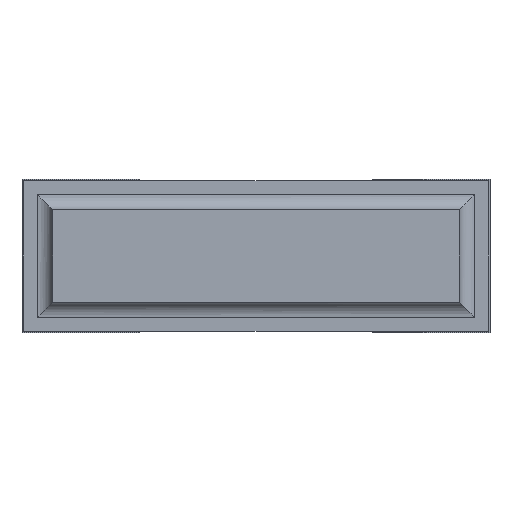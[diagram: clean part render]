
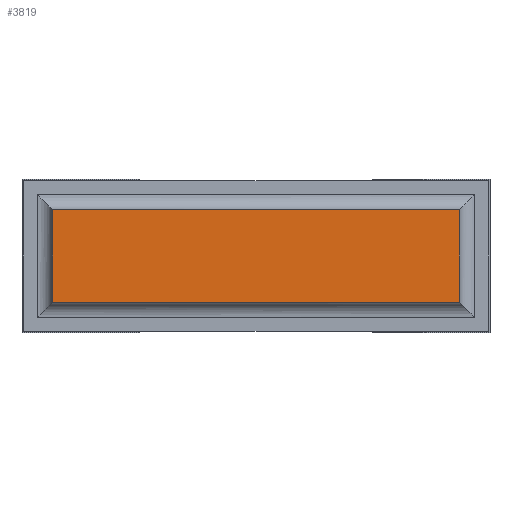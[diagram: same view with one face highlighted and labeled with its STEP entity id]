
A CAD part, front view. The second image highlights one B-rep face of the part: STEP entity #3819.
In plain terms, the highlighted planar face has unit normal (0, -1, 0).
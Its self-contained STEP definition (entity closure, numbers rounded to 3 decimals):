
#205=FACE_OUTER_BOUND('',#441,.T.);
#441=EDGE_LOOP('',(#2767,#2768,#2769,#2770));
#746=LINE('',#5626,#1238);
#752=LINE('',#5642,#1244);
#755=LINE('',#5651,#1247);
#757=LINE('',#5655,#1249);
#1238=VECTOR('',#4536,10.);
#1244=VECTOR('',#4550,10.);
#1247=VECTOR('',#4565,10.);
#1249=VECTOR('',#4571,10.);
#1695=VERTEX_POINT('',#5623);
#1696=VERTEX_POINT('',#5625);
#1700=VERTEX_POINT('',#5636);
#1702=VERTEX_POINT('',#5640);
#2078=EDGE_CURVE('',#1696,#1695,#746,.T.);
#2086=EDGE_CURVE('',#1700,#1702,#752,.T.);
#2091=EDGE_CURVE('',#1695,#1700,#755,.T.);
#2093=EDGE_CURVE('',#1702,#1696,#757,.T.);
#2767=ORIENTED_EDGE('',*,*,#2078,.T.);
#2768=ORIENTED_EDGE('',*,*,#2091,.T.);
#2769=ORIENTED_EDGE('',*,*,#2086,.T.);
#2770=ORIENTED_EDGE('',*,*,#2093,.T.);
#3625=PLANE('',#4093);
#3819=ADVANCED_FACE('',(#205),#3625,.T.);
#4093=AXIS2_PLACEMENT_3D('',#5658,#4575,#4576);
#4536=DIRECTION('',(0.,0.,-1.));
#4550=DIRECTION('',(0.,0.,1.));
#4565=DIRECTION('',(1.,0.,0.));
#4571=DIRECTION('',(-1.,0.,0.));
#4575=DIRECTION('center_axis',(0.,-1.,0.));
#4576=DIRECTION('ref_axis',(0.,0.,-1.));
#5623=CARTESIAN_POINT('',(0.1,0.,0.1));
#5625=CARTESIAN_POINT('',(0.1,0.,0.4));
#5626=CARTESIAN_POINT('',(0.1,0.,0.4));
#5636=CARTESIAN_POINT('',(1.42,0.,0.1));
#5640=CARTESIAN_POINT('',(1.42,0.,0.4));
#5642=CARTESIAN_POINT('',(1.42,0.,0.1));
#5651=CARTESIAN_POINT('',(0.1,0.,0.1));
#5655=CARTESIAN_POINT('',(1.42,0.,0.4));
#5658=CARTESIAN_POINT('Origin',(0.1,0.,0.25));
